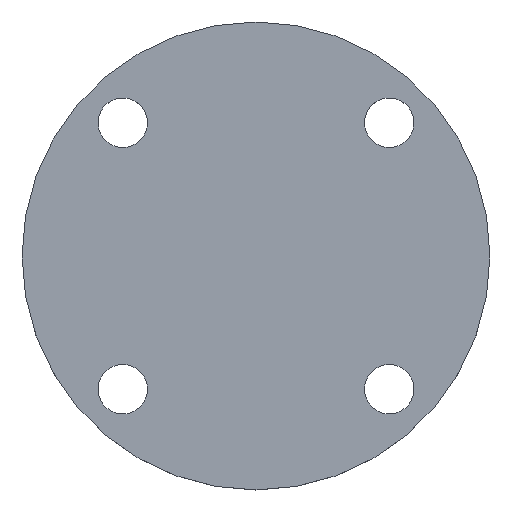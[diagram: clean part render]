
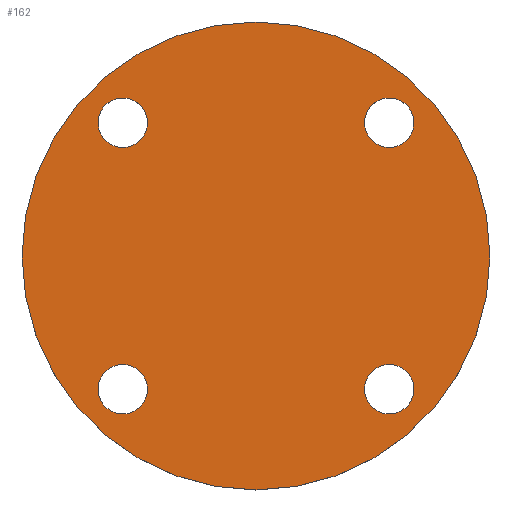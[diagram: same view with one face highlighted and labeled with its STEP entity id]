
A CAD part, top view. The second image highlights one B-rep face of the part: STEP entity #162.
In plain terms, the highlighted planar face has unit normal (0, 0, 1).
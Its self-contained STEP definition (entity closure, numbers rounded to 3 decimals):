
#15=FACE_BOUND('',#38,.T.);
#16=FACE_BOUND('',#39,.T.);
#17=FACE_BOUND('',#40,.T.);
#18=FACE_BOUND('',#41,.T.);
#23=PLANE('',#205);
#30=FACE_OUTER_BOUND('',#37,.T.);
#37=EDGE_LOOP('',(#136,#137));
#38=EDGE_LOOP('',(#138,#139));
#39=EDGE_LOOP('',(#140,#141));
#40=EDGE_LOOP('',(#142,#143));
#41=EDGE_LOOP('',(#144,#145));
#57=CIRCLE('',#185,9.5);
#58=CIRCLE('',#186,9.5);
#60=CIRCLE('',#189,9.5);
#61=CIRCLE('',#190,9.5);
#63=CIRCLE('',#193,9.5);
#64=CIRCLE('',#194,9.5);
#66=CIRCLE('',#197,9.5);
#67=CIRCLE('',#198,9.5);
#69=CIRCLE('',#201,90.);
#70=CIRCLE('',#202,90.);
#73=VERTEX_POINT('',#262);
#74=VERTEX_POINT('',#263);
#76=VERTEX_POINT('',#270);
#77=VERTEX_POINT('',#271);
#79=VERTEX_POINT('',#278);
#80=VERTEX_POINT('',#279);
#82=VERTEX_POINT('',#286);
#83=VERTEX_POINT('',#287);
#85=VERTEX_POINT('',#294);
#86=VERTEX_POINT('',#295);
#89=EDGE_CURVE('',#73,#74,#57,.T.);
#90=EDGE_CURVE('',#74,#73,#58,.T.);
#93=EDGE_CURVE('',#76,#77,#60,.T.);
#94=EDGE_CURVE('',#77,#76,#61,.T.);
#97=EDGE_CURVE('',#79,#80,#63,.T.);
#98=EDGE_CURVE('',#80,#79,#64,.T.);
#101=EDGE_CURVE('',#82,#83,#66,.T.);
#102=EDGE_CURVE('',#83,#82,#67,.T.);
#105=EDGE_CURVE('',#85,#86,#69,.T.);
#106=EDGE_CURVE('',#86,#85,#70,.T.);
#136=ORIENTED_EDGE('',*,*,#105,.T.);
#137=ORIENTED_EDGE('',*,*,#106,.T.);
#138=ORIENTED_EDGE('',*,*,#89,.T.);
#139=ORIENTED_EDGE('',*,*,#90,.T.);
#140=ORIENTED_EDGE('',*,*,#93,.T.);
#141=ORIENTED_EDGE('',*,*,#94,.T.);
#142=ORIENTED_EDGE('',*,*,#97,.T.);
#143=ORIENTED_EDGE('',*,*,#98,.T.);
#144=ORIENTED_EDGE('',*,*,#101,.T.);
#145=ORIENTED_EDGE('',*,*,#102,.T.);
#162=ADVANCED_FACE('',(#30,#15,#16,#17,#18),#23,.T.);
#185=AXIS2_PLACEMENT_3D('',#264,#211,#212);
#186=AXIS2_PLACEMENT_3D('',#265,#213,#214);
#189=AXIS2_PLACEMENT_3D('',#272,#220,#221);
#190=AXIS2_PLACEMENT_3D('',#273,#222,#223);
#193=AXIS2_PLACEMENT_3D('',#280,#229,#230);
#194=AXIS2_PLACEMENT_3D('',#281,#231,#232);
#197=AXIS2_PLACEMENT_3D('',#288,#238,#239);
#198=AXIS2_PLACEMENT_3D('',#289,#240,#241);
#201=AXIS2_PLACEMENT_3D('',#296,#247,#248);
#202=AXIS2_PLACEMENT_3D('',#297,#249,#250);
#205=AXIS2_PLACEMENT_3D('',#303,#256,#257);
#211=DIRECTION('center_axis',(0.,0.,-1.));
#212=DIRECTION('ref_axis',(0.,-1.,0.));
#213=DIRECTION('center_axis',(0.,0.,-1.));
#214=DIRECTION('ref_axis',(0.,-1.,0.));
#220=DIRECTION('center_axis',(0.,0.,-1.));
#221=DIRECTION('ref_axis',(-1.,0.,0.));
#222=DIRECTION('center_axis',(0.,0.,-1.));
#223=DIRECTION('ref_axis',(-1.,0.,0.));
#229=DIRECTION('center_axis',(0.,0.,-1.));
#230=DIRECTION('ref_axis',(0.,1.,0.));
#231=DIRECTION('center_axis',(0.,0.,-1.));
#232=DIRECTION('ref_axis',(0.,1.,0.));
#238=DIRECTION('center_axis',(0.,0.,-1.));
#239=DIRECTION('ref_axis',(1.,0.,0.));
#240=DIRECTION('center_axis',(0.,0.,-1.));
#241=DIRECTION('ref_axis',(1.,0.,0.));
#247=DIRECTION('center_axis',(0.,0.,1.));
#248=DIRECTION('ref_axis',(1.,0.,0.));
#249=DIRECTION('center_axis',(0.,0.,1.));
#250=DIRECTION('ref_axis',(1.,0.,0.));
#256=DIRECTION('center_axis',(0.,0.,1.));
#257=DIRECTION('ref_axis',(1.,0.,0.));
#262=CARTESIAN_POINT('',(51.265,41.765,14.));
#263=CARTESIAN_POINT('',(51.265,60.765,14.));
#264=CARTESIAN_POINT('Origin',(51.265,51.265,14.));
#265=CARTESIAN_POINT('Origin',(51.265,51.265,14.));
#270=CARTESIAN_POINT('',(41.765,-51.265,14.));
#271=CARTESIAN_POINT('',(60.765,-51.265,14.));
#272=CARTESIAN_POINT('Origin',(51.265,-51.265,14.));
#273=CARTESIAN_POINT('Origin',(51.265,-51.265,14.));
#278=CARTESIAN_POINT('',(-51.265,-41.765,14.));
#279=CARTESIAN_POINT('',(-51.265,-60.765,14.));
#280=CARTESIAN_POINT('Origin',(-51.265,-51.265,14.));
#281=CARTESIAN_POINT('Origin',(-51.265,-51.265,14.));
#286=CARTESIAN_POINT('',(-41.765,51.265,14.));
#287=CARTESIAN_POINT('',(-60.765,51.265,14.));
#288=CARTESIAN_POINT('Origin',(-51.265,51.265,14.));
#289=CARTESIAN_POINT('Origin',(-51.265,51.265,14.));
#294=CARTESIAN_POINT('',(90.,0.,14.));
#295=CARTESIAN_POINT('',(-90.,0.,14.));
#296=CARTESIAN_POINT('Origin',(0.,0.,14.));
#297=CARTESIAN_POINT('Origin',(0.,0.,14.));
#303=CARTESIAN_POINT('Origin',(0.,0.,14.));
